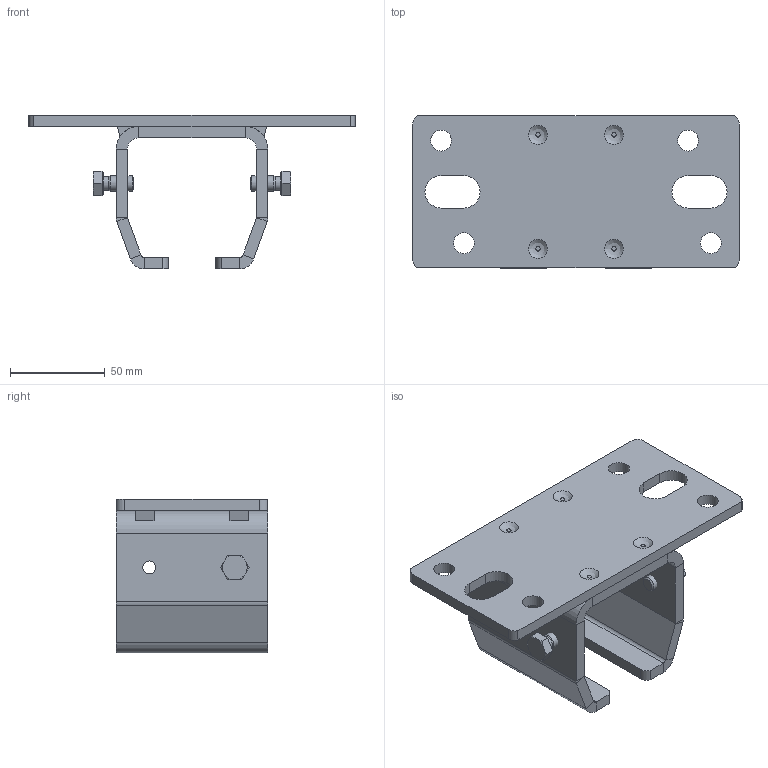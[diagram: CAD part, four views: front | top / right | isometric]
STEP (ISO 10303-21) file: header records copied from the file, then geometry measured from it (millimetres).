
FILE_DESCRIPTION(/* description */ ('Deckenbefestigung Nr.3'),/* implementation_level */ '2;1');
FILE_NAME(/* name */ 'Q:\sge-ma\Produktmanagement-STB\STB\Workspace\stp\010333060.stp',/* time_stamp */ '2015-03-10T12:58:58+01:00',/* author */ ('avschreier'),/* organization */ (''),/* preprocessor_version */ 'ST-DEVELOPER v15.6',/* originating_system */ 'Autodesk Inventor 2015',/* authorisation */ '');
FILE_SCHEMA (('CONFIG_CONTROL_DESIGN'));
Length unit declared in the file: millimetre
Products named in the file (5): 010333060_Schweißnähte; 337000238; 335140030; DIN_EN_ISO_4017-M8x16_en; 010333060
Bounding box: 172 x 80 x 81 mm (x, y, z)
Volume: 191411.9 mm3; surface area: 75038.5 mm2
Topology: 8 solids, 8 shells, 164 faces, 353 edges, 217 vertices
Faces by surface type: plane 96, cylinder 44, cone 16, bspline 8
Full cylindrical faces by diameter (mm): 6.647 x3, 6.8 x3, 7.323 x2, 8 x2, 11 x4, 11.4 x2
Entity records: 4102 total; most frequent: CARTESIAN_POINT 883, DIRECTION 676, ORIENTED_EDGE 586, EDGE_CURVE 293, AXIS2_PLACEMENT_3D 258, EDGE_LOOP 192, VERTEX_POINT 189, LINE 160
